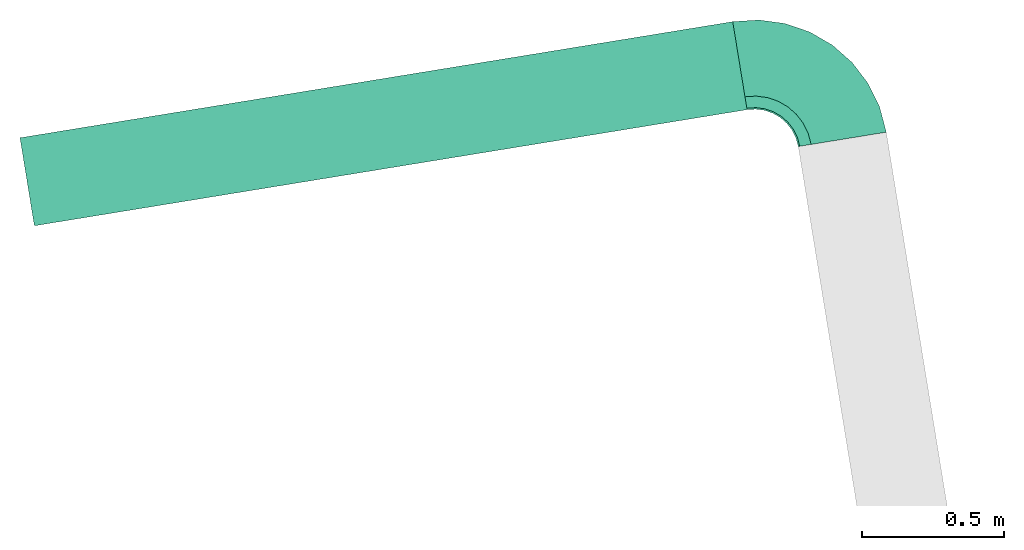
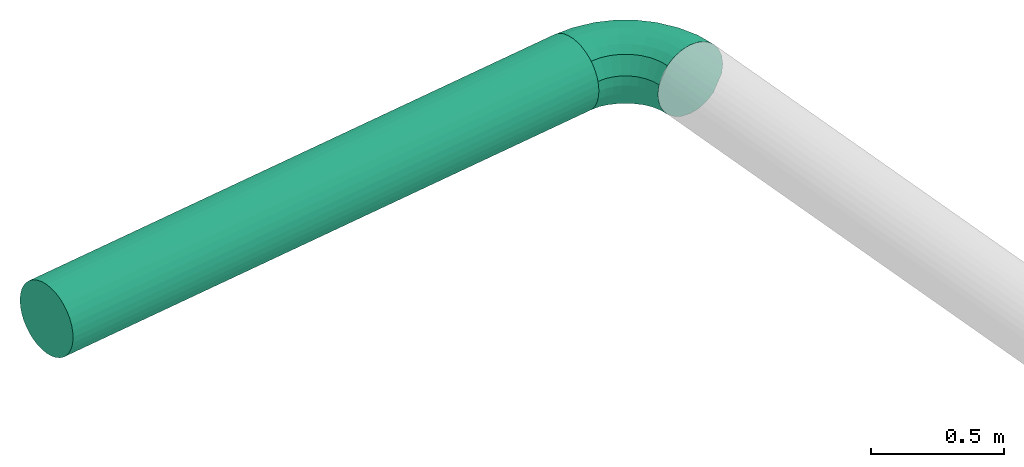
# One storey, part 2 of 2: 1 flow fitting, 1 flow segment.
"""IFC2X3 building model written with IfcOpenShell, lengths in millimetres."""

import ifcopenshell
import ifcopenshell.guid

model = None  # the IFC model being written
_history = None  # IfcOwnerHistory: only IFC2X3 demands one
_inside = {}  # id of a spatial element -> (the spatial element, [elements in it])
_under = {}  # id of a project, library or spatial element -> (it, [spatial elements below it])
_declared = {}  # id of a project -> (the project, [libraries it declares])
_typed = {}  # id of a type object -> (the type object, [elements of that type])
_made_of = {}  # id of a material, layer set ... -> (it, [elements and type objects made of it])


def new_model(schema):
    """Start an empty IFC model of exactly this schema.

    Asked for "IFC4X3", IfcOpenShell would pick the latest addendum, in which some entities
    have other attributes; the version numbers below select the first issue.
    IFC2X3 requires an IfcOwnerHistory on every rooted entity: one is made here for all.
    """
    global model, _history
    if schema == "IFC4X3":
        model = ifcopenshell.file(schema_version=(4, 3, 0, 0))
    else:
        model = ifcopenshell.file(schema=schema)
    _inside.clear()
    _under.clear()
    _declared.clear()
    _typed.clear()
    _made_of.clear()
    _history = None
    if model.schema == "IFC2X3":
        org = make("IfcOrganization", Name="unknown")
        user = make(
            "IfcPersonAndOrganization",
            ThePerson=make("IfcPerson", FamilyName="unknown"),
            TheOrganization=org,
        )
        app = make(
            "IfcApplication",
            ApplicationDeveloper=org,
            Version="unknown",
            ApplicationFullName="unknown",
            ApplicationIdentifier="unknown",
        )
        _history = make(
            "IfcOwnerHistory",
            OwningUser=user,
            OwningApplication=app,
            ChangeAction="ADDED",
            CreationDate=0,
        )
    return model


def make(cls, **values):
    """One entity of the class cls with the attributes given. An attribute that is None is left unset."""
    return model.create_entity(
        cls, **{name: value for name, value in values.items() if value is not None}
    )


def entity(cls, *values):
    """Any entity or typed value of the class cls, its attributes in the order of the schema. None: left unset."""
    e = model.create_entity(cls)
    for i, value in enumerate(values):
        if value is not None:
            e[i] = value
    return e


def rooted(cls, **values):
    """An entity with a GlobalId (a new one), such as an element, a storey or a relation."""
    return make(cls, GlobalId=ifcopenshell.guid.new(), OwnerHistory=_history, **values)


def si_unit(unit_type, name, prefix=None):
    """IfcSIUnit, for example si_unit("LENGTHUNIT", "METRE", prefix="MILLI")."""
    return make("IfcSIUnit", UnitType=unit_type, Prefix=prefix, Name=name)


def converted_unit(unit_type, name, factor, base, dimensions=None, offset=None):
    """IfcConversionBasedUnit, such as the inch: factor (a typed value) times the base unit."""
    return make(
        "IfcConversionBasedUnit"
        if offset is None
        else "IfcConversionBasedUnitWithOffset",
        ConversionOffset=offset,
        Dimensions=None
        if dimensions is None
        else entity("IfcDimensionalExponents", *dimensions),
        UnitType=unit_type,
        Name=name,
        ConversionFactor=make(
            "IfcMeasureWithUnit", ValueComponent=factor, UnitComponent=base
        ),
    )


def derived_unit(unit_type, elements):
    """IfcDerivedUnit: a product of units, each with its exponent."""
    return make(
        "IfcDerivedUnit",
        Elements=[
            make("IfcDerivedUnitElement", Unit=unit, Exponent=power)
            for unit, power in elements
        ],
        UnitType=unit_type,
    )


def assignment(units):
    """IfcUnitAssignment: the units of a project."""
    return None if units is None else make("IfcUnitAssignment", Units=units)


def point(xyz):
    """IfcCartesianPoint."""
    return None if xyz is None else make("IfcCartesianPoint", Coordinates=xyz)


def direction(xyz):
    """IfcDirection."""
    return None if xyz is None else make("IfcDirection", DirectionRatios=xyz)


def frame(location, z_axis=None, x_axis=None):
    """IfcAxis2Placement3D, a coordinate frame: its origin and axes. An axis left out is left unset."""
    return make(
        "IfcAxis2Placement3D",
        Location=point(location),
        Axis=direction(z_axis),
        RefDirection=direction(x_axis),
    )


def origin():
    """The frame at (0, 0, 0) with its axes left unset."""
    return frame((0.0, 0.0, 0.0))


def origin_with_axes():
    """The frame at (0, 0, 0) with the z axis (0, 0, 1) and the x axis (1, 0, 0) written out."""
    return frame((0.0, 0.0, 0.0), z_axis=(0.0, 0.0, 1.0), x_axis=(1.0, 0.0, 0.0))


def place(relative_to, where):
    """IfcLocalPlacement: puts the frame where relative to a parent placement (None: the world)."""
    return make(
        "IfcLocalPlacement", PlacementRelTo=relative_to, RelativePlacement=where
    )


def context(
    kind, dimensions, precision=None, world=None, true_north=None, identifier=None
):
    """IfcGeometricRepresentationContext, for example the 3D "Model" context."""
    return make(
        "IfcGeometricRepresentationContext",
        ContextIdentifier=identifier,
        ContextType=kind,
        CoordinateSpaceDimension=dimensions,
        Precision=precision,
        WorldCoordinateSystem=world,
        TrueNorth=true_north,
    )


def subcontext(parent, identifier, kind, view, scale=None):
    """IfcGeometricRepresentationSubContext, for example "Body" below "Model"."""
    return make(
        "IfcGeometricRepresentationSubContext",
        ContextIdentifier=identifier,
        ContextType=kind,
        ParentContext=parent,
        TargetScale=scale,
        TargetView=view,
    )


def project(units=None, contexts=None):
    """IfcProject with its units and contexts."""
    return rooted(
        "IfcProject",
        Name="project",
        RepresentationContexts=contexts,
        UnitsInContext=assignment(units),
    )


def spatial(cls, under=None, at=None, **own):
    """A site, building, storey or space (cls), placed at a placement, below another one or the project."""
    s = rooted(cls, ObjectPlacement=at, **own)
    if under is not None:
        _under.setdefault(under.id(), (under, []))[1].append(s)
    return s


def faces_of(points, faces, orient=None, outer=None):
    """IfcFace entities. A face is a list of loops; a loop is a list of indices into points, from 0.

    orient and outer hold one flag for each loop. By default every Orientation is true, the
    first loop of a face is its IfcFaceOuterBound and the others are IfcFaceBound.
    """
    made = []
    for i, loops in enumerate(faces):
        bounds = []
        for j, loop in enumerate(loops):
            is_outer = j == 0 if outer is None else outer[i][j]
            bounds.append(
                make(
                    "IfcFaceOuterBound" if is_outer else "IfcFaceBound",
                    Bound=make("IfcPolyLoop", Polygon=[points[k] for k in loop]),
                    Orientation=True if orient is None else orient[i][j],
                )
            )
        made.append(make("IfcFace", Bounds=bounds))
    return made


def faceted_brep(points, faces, orient=None, outer=None, voids=None):
    """IfcFacetedBrep: a solid bounded by flat faces; with voids (closed shells), ...WithVoids."""
    shared = [point(p) for p in points]
    hull = make("IfcClosedShell", CfsFaces=faces_of(shared, faces, orient, outer))
    if voids is None:
        return make("IfcFacetedBrep", Outer=hull)
    return make(
        "IfcFacetedBrepWithVoids",
        Outer=hull,
        Voids=[
            make(cls, CfsFaces=faces_of(shared, fs, o, b)) for cls, fs, o, b in voids
        ],
    )


def shape(context_of_items, identifier, shape_type, items):
    """IfcShapeRepresentation: the items that make up one representation, for example the "Body"."""
    return make(
        "IfcShapeRepresentation",
        ContextOfItems=context_of_items,
        RepresentationIdentifier=identifier,
        RepresentationType=shape_type,
        Items=items,
    )


def source(mapping_origin, context_of_items, identifier, shape_type, items):
    """IfcRepresentationMap: a shape defined once, which mapped items show again and again."""
    return make(
        "IfcRepresentationMap",
        MappingOrigin=mapping_origin,
        MappedRepresentation=shape(context_of_items, identifier, shape_type, items),
    )


def transform(
    local_origin,
    x_axis=None,
    y_axis=None,
    z_axis=None,
    scale=None,
    scale2=None,
    scale3=None,
    uniform=True,
):
    """IfcCartesianTransformationOperator3D, or its non-uniform kind. x_axis, y_axis, z_axis: its Axis1, 2, 3."""
    if uniform:
        return make(
            "IfcCartesianTransformationOperator3D",
            Axis1=direction(x_axis),
            Axis2=direction(y_axis),
            LocalOrigin=point(local_origin),
            Scale=scale,
            Axis3=direction(z_axis),
        )
    return make(
        "IfcCartesianTransformationOperator3DnonUniform",
        Axis1=direction(x_axis),
        Axis2=direction(y_axis),
        LocalOrigin=point(local_origin),
        Scale=scale,
        Axis3=direction(z_axis),
        Scale2=scale2,
        Scale3=scale3,
    )


def mapped(mapping_source, mapping_target):
    """IfcMappedItem: shows the shape of a source again, moved by a transform."""
    return make(
        "IfcMappedItem", MappingSource=mapping_source, MappingTarget=mapping_target
    )


def material(Name=None, Category=None):
    """IfcMaterial."""
    return make("IfcMaterial", Name=Name, Category=Category)


def made_of(thing, what):
    """Note that an element or type object is made of a material, layer set ...; save() writes the relation."""
    if what is not None:
        _made_of.setdefault(what.id(), (what, []))[1].append(thing)
    return thing


def type_object(cls, material=None, **own):
    """A type object (cls), such as IfcWallType, which elements share."""
    return made_of(rooted(cls, **own), material)


def element(
    cls,
    number,
    at=None,
    inside=None,
    cuts=None,
    type_object=None,
    material=None,
    context=None,
    identifier="Body",
    shape_type=None,
    held_by="IfcProductDefinitionShape",
    body=None,
    shapes=None,
    **own,
):
    """One element of the class cls, such as IfcWall. Its Tag is "e" and its number.

    at: its placement. inside: the storey or other place that contains it. cuts: it is an
    opening in that element (IfcRelVoidsElement). A single representation is given by context,
    identifier, shape_type and body (its items); several are given by shapes. held_by: the class
    of the entity that holds the representations. save() writes the other relations.
    """
    e = rooted(cls, Tag="e%d" % number, ObjectPlacement=at, **own)
    if body is not None:
        shapes = [shape(context, identifier, shape_type, body)]
    if shapes is not None:
        e.Representation = make(held_by, Representations=shapes)
    if inside is not None:
        _inside.setdefault(inside.id(), (inside, []))[1].append(e)
    if cuts is not None:
        rooted(
            "IfcRelVoidsElement", RelatingBuildingElement=cuts, RelatedOpeningElement=e
        )
    if type_object is not None:
        _typed.setdefault(type_object.id(), (type_object, []))[1].append(e)
    return made_of(e, material)


def aggregate(whole, parts):
    """IfcRelAggregates: a whole, such as a stair, and the parts it consists of."""
    return rooted("IfcRelAggregates", RelatingObject=whole, RelatedObjects=parts)


def save(model, path):
    """Write the relations noted so far, then the file.

    IfcRelAggregates (storeys below a building ...), IfcRelContainedInSpatialStructure (elements
    in a storey), IfcRelDefinesByType, IfcRelAssociatesMaterial and IfcRelDeclares: one each for
    every whole, place, type object, material and project.
    """
    for whole, parts in _under.values():
        aggregate(whole, parts)
    for where, things in _inside.values():
        rooted(
            "IfcRelContainedInSpatialStructure",
            RelatedElements=things,
            RelatingStructure=where,
        )
    for kind, things in _typed.values():
        rooted("IfcRelDefinesByType", RelatedObjects=things, RelatingType=kind)
    for what, things in _made_of.values():
        rooted("IfcRelAssociatesMaterial", RelatedObjects=things, RelatingMaterial=what)
    for by, libraries in _declared.values():
        rooted("IfcRelDeclares", RelatingContext=by, RelatedDefinitions=libraries)
    model.write(path)


model = new_model("IFC2X3")

# Units and contexts
plan_context = context("Plan", 3, precision=1e-05, world=origin_with_axes())
model_context = context("Model", 3, precision=0.01, world=origin(), true_north=direction((6.12323399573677e-17, 1.0)))
body_context = subcontext(model_context, "Body", "Model", "MODEL_VIEW")
ifc_project = project(units=[converted_unit("PLANEANGLEUNIT", "DEGREE", entity("IfcPositiveLengthMeasure", 0.0174532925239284), si_unit("PLANEANGLEUNIT", "RADIAN"), dimensions=[0, 0, 0, 0, 0, 0, 0]), si_unit("AREAUNIT", "SQUARE_METRE"), si_unit("LENGTHUNIT", "METRE", prefix="MILLI"), si_unit("MASSUNIT", "GRAM", prefix="KILO"), si_unit("POWERUNIT", "WATT"), si_unit("PRESSUREUNIT", "PASCAL", prefix="KILO"), si_unit("FORCEUNIT", "NEWTON", prefix="KILO"), si_unit("ELECTRICVOLTAGEUNIT", "VOLT"), si_unit("ELECTRICCURRENTUNIT", "AMPERE"), si_unit("THERMODYNAMICTEMPERATUREUNIT", "DEGREE_CELSIUS"), si_unit("TIMEUNIT", "SECOND"), si_unit("VOLUMEUNIT", "CUBIC_METRE"), derived_unit("LINEARVELOCITYUNIT", [(si_unit("LENGTHUNIT", "METRE"), 1), (si_unit("TIMEUNIT", "SECOND"), -1)]), derived_unit("VOLUMETRICFLOWRATEUNIT", [(si_unit("VOLUMEUNIT", "CUBIC_METRE"), 1), (si_unit("TIMEUNIT", "SECOND"), -1)]), derived_unit("THERMALTRANSMITTANCEUNIT", [(si_unit("POWERUNIT", "WATT"), 1), (si_unit("THERMODYNAMICTEMPERATUREUNIT", "KELVIN"), -1), (si_unit("AREAUNIT", "SQUARE_METRE"), -1)]), derived_unit("SOUNDPRESSUREUNIT", [(si_unit("PRESSUREUNIT", "PASCAL"), 1)])], contexts=[model_context, plan_context])

# Site, building, storey
site_placement = place(None, frame((5.09380697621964e-08, 5.80416781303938e-08, 0.0), z_axis=(0.0, 0.0, 1.0), x_axis=(-0.160806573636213, 0.986985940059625, 0.0)))
site = spatial("IfcSite", under=ifc_project, at=site_placement, Name="Default", CompositionType="ELEMENT")
building_placement = place(site_placement, frame((0.0, 0.0, 0.0), z_axis=(0.0, 0.0, 1.0), x_axis=(1.0, -2.77555756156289e-17, 0.0)))
building = spatial("IfcBuilding", under=site, at=building_placement, Name="Bygning (endres i Project Information)", CompositionType="ELEMENT")
storey_placement = place(building_placement, frame((0.0, 0.0, 51360.0000000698), z_axis=(0.0, 0.0, 1.0), x_axis=(1.0, -2.77555756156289e-17, 0.0)))
storey = spatial("IfcBuildingStorey", under=building, at=storey_placement, Name="H01-Nivå D+0,36", CompositionType="ELEMENT", Elevation=51360.0000000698)

# Flow fitting
ifc_material = material(Name="3601.001 Tilluft")
duct_fitting_type = type_object("IfcDuctFittingType", Name="magicirc_elbow_full_radius_NOR:magicirc_elbow_full_radius_NOR", PredefinedType="NOTDEFINED", material=ifc_material)
shared_shape = source(origin(), body_context, "Body", "Brep", [
    faceted_brep([(-222.819823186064, -148.421045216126, 0.0), (-223.866810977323, -143.157482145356, 40.7639996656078), (-315.000000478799, -152.133317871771, 40.7639996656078), (-315.000000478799, -157.5000002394, 0.0), (-226.936423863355, -127.725496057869, 78.7500001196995), (-315.000000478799, -136.399001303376, 78.7500001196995), (-231.819472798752, -103.176751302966, 111.369318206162), (-315.000000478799, -111.369318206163, 111.369318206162), (-238.183186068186, -71.1842042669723, 136.399001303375), (-315.000000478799, -78.7500001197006, 136.399001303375), (-245.59388712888, -33.9280941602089, 152.133317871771), (-315.000000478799, -40.763999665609, 152.133317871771), (-253.546548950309, 6.05263668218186, 157.5000002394), (-315.000000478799, 0.0, 157.5000002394), (-261.499210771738, 46.0333675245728, 152.133317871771), (-315.000000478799, 40.7639996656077, 152.133317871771), (-268.909911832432, 83.2894776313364, 136.399001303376), (-315.000000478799, 78.7500001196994, 136.399001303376), (-275.273625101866, 115.28202466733, 111.369318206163), (-315.000000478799, 111.369318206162, 111.369318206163), (-283.226286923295, 155.262755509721, 40.7639996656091), (-315.000000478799, 152.133317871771, 40.7639996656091), (-284.273274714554, 160.526318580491, 0.0), (-315.000000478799, 157.5000002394, 0.0), (-283.226286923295, 155.262755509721, -40.7639996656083), (-315.000000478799, 152.133317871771, -40.7639996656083), (-280.156674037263, 139.830769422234, -78.7500001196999), (-315.000000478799, 136.399001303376, -78.7500001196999), (-275.273625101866, 115.28202466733, -111.369318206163), (-315.000000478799, 111.369318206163, -111.369318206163), (-268.909911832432, 83.2894776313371, -136.399001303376), (-315.000000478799, 78.7500001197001, -136.399001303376), (-261.499210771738, 46.0333675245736, -152.133317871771), (-315.000000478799, 40.7639996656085, -152.133317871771), (-253.546548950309, 6.05263668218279, -157.5000002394), (-315.000000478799, 0.0, -157.5000002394), (-245.59388712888, -33.928094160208, -152.133317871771), (-315.000000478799, -40.763999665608, -152.133317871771), (-238.183186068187, -71.1842042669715, -136.399001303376), (-315.000000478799, -78.7500001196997, -136.399001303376), (-231.819472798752, -103.176751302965, -111.369318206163), (-315.000000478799, -111.369318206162, -111.369318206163), (-223.866810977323, -143.157482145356, -40.7639996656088), (-315.000000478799, -152.133317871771, -40.7639996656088), (-134.18207841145, -121.533079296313, 0.0), (-136.235818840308, -116.574911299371, 40.7639996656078), (-142.25708111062, -102.038298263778, 78.7500001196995), (-151.835526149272, -78.9138863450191, 111.369318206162), (-164.318398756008, -48.7775660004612, 136.399001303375), (-178.855011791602, -13.6830776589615, 152.133317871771), (-194.454719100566, 23.9779472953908, 157.5000002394), (-210.054426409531, 61.6389722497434, 152.133317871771), (-224.591039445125, 96.7334605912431, 136.399001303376), (-237.073912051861, 126.869780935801, 111.369318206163), (-252.673619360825, 164.530805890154, 40.7639996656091), (-254.727359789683, 169.488973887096, 0.0), (-252.673619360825, 164.530805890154, -40.7639996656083), (-246.652357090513, 149.994192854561, -78.7500001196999), (-237.073912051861, 126.869780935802, -111.369318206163), (-224.591039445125, 96.7334605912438, -136.399001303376), (-210.054426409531, 61.6389722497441, -152.133317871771), (-194.454719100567, 23.9779472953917, -157.5000002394), (-178.855011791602, -13.6830776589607, -152.133317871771), (-164.318398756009, -48.7775660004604, -136.399001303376), (-151.835526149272, -78.9138863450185, -111.369318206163), (-136.235818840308, -116.574911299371, -40.7639996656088), (-52.493064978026, -77.8693919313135, 0.0), (-55.4746339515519, -73.4071586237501, 40.7639996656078), (-64.2161518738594, -60.3245525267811, 78.7500001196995), (-78.1218987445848, -39.513131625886, 111.369318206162), (-96.2442208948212, -12.3911598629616, 136.399001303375), (-117.348112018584, 19.1930452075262, 152.133317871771), (-139.995376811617, 53.0870722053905, 157.5000002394), (-162.64264160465, 86.981099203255, 152.133317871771), (-183.746532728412, 118.565304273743, 136.399001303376), (-201.868854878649, 145.687276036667, 111.369318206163), (-224.516119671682, 179.581303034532, 40.7639996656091), (-227.497688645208, 184.043536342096, 0.0), (-224.516119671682, 179.581303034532, -40.7639996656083), (-215.774601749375, 166.498696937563, -78.7500001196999), (-201.868854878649, 145.687276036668, -111.369318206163), (-183.746532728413, 118.565304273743, -136.399001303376), (-162.64264160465, 86.9810992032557, -152.133317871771), (-139.995376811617, 53.0870722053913, -157.5000002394), (-117.348112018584, 19.1930452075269, -152.133317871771), (-96.2442208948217, -12.391159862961, -136.399001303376), (-78.1218987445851, -39.5131316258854, -111.369318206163), (-55.474633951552, -73.4071586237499, -40.7639996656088), (19.1079541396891, -19.1079541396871, 0.0), (15.3131366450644, -15.3131366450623, 40.7639996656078), (4.18729470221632, -4.18729470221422, 78.7500001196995), (-13.5113639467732, 13.5113639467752, 111.369318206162), (-36.5767049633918, 36.5767049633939, 136.399001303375), (-63.4368634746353, 63.4368634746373, 152.133317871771), (-92.2613640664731, 92.261364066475, 157.5000002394), (-121.085864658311, 121.085864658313, 152.133317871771), (-147.946023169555, 147.946023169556, 136.399001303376), (-171.011364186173, 171.011364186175, 111.369318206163), (-199.835864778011, 199.835864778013, 40.7639996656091), (-203.630682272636, 203.630682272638, 0.0), (-199.835864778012, 199.835864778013, -40.7639996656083), (-188.710022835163, 188.710022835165, -78.7500001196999), (-171.011364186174, 171.011364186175, -111.369318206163), (-147.946023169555, 147.946023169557, -136.399001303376), (-121.085864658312, 121.085864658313, -152.133317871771), (-92.2613640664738, 92.2613640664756, -157.5000002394), (-63.4368634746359, 63.4368634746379, -152.133317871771), (-36.5767049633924, 36.5767049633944, -136.399001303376), (-13.5113639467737, 13.5113639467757, -111.369318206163), (15.3131366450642, -15.3131366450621, -40.7639996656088), (77.8693919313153, 52.4930649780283, 0.0), (73.4071586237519, 55.4746339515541, 40.7639996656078), (60.3245525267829, 64.2161518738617, 78.7500001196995), (39.5131316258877, 78.1218987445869, 111.369318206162), (12.3911598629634, 96.2442208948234, 136.399001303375), (-19.1930452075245, 117.348112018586, 152.133317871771), (-53.0870722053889, 139.995376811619, 157.5000002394), (-86.9810992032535, 162.642641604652, 152.133317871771), (-118.565304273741, 183.746532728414, 136.399001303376), (-145.687276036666, 201.868854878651, 111.369318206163), (-179.581303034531, 224.516119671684, 40.7639996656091), (-184.043536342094, 227.49768864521, 0.0), (-179.581303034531, 224.516119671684, -40.7639996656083), (-166.498696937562, 215.774601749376, -78.7500001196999), (-145.687276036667, 201.868854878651, -111.369318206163), (-118.565304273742, 183.746532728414, -136.399001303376), (-86.9810992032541, 162.642641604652, -152.133317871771), (-53.0870722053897, 139.995376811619, -157.5000002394), (-19.1930452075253, 117.348112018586, -152.133317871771), (12.3911598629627, 96.2442208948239, -136.399001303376), (39.5131316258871, 78.1218987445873, -111.369318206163), (73.4071586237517, 55.4746339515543, -40.7639996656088), (121.533079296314, 134.182078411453, 0.0), (116.574911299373, 136.23581884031, 40.7639996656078), (102.038298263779, 142.257081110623, 78.7500001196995), (78.9138863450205, 151.835526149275, 111.369318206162), (48.7775660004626, 164.318398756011, 136.399001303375), (13.6830776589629, 178.855011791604, 152.133317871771), (-23.9779472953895, 194.454719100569, 157.5000002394), (-61.6389722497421, 210.054426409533, 152.133317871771), (-96.7334605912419, 224.591039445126, 136.399001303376), (-126.8697809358, 237.073912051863, 111.369318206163), (-164.530805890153, 252.673619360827, 40.7639996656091), (-169.488973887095, 254.727359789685, 0.0), (-164.530805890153, 252.673619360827, -40.7639996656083), (-149.994192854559, 246.652357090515, -78.7500001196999), (-126.869780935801, 237.073912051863, -111.369318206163), (-96.7334605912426, 224.591039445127, -136.399001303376), (-61.6389722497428, 210.054426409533, -152.133317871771), (-23.9779472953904, 194.454719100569, -157.5000002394), (13.6830776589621, 178.855011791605, -152.133317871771), (48.7775660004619, 164.318398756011, -136.399001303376), (78.9138863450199, 151.835526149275, -111.369318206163), (116.574911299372, 136.23581884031, -40.7639996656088), (148.421045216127, 222.819823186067, 0.0), (143.157482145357, 223.866810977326, 40.7639996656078), (127.725496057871, 226.936423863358, 78.7500001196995), (103.176751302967, 231.819472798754, 111.369318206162), (71.1842042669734, 238.183186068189, 136.399001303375), (33.9280941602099, 245.593887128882, 152.133317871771), (-6.05263668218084, 253.546548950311, 157.5000002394), (-46.0333675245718, 261.49921077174, 152.133317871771), (-83.2894776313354, 268.909911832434, 136.399001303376), (-115.282024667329, 275.273625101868, 111.369318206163), (-155.26275550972, 283.226286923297, 40.7639996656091), (-160.52631858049, 284.273274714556, 0.0), (-155.26275550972, 283.226286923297, -40.7639996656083), (-139.830769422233, 280.156674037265, -78.7500001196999), (-115.282024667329, 275.273625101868, -111.369318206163), (-83.2894776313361, 268.909911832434, -136.399001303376), (-46.0333675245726, 261.49921077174, -152.133317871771), (-6.05263668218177, 253.546548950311, -157.5000002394), (33.928094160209, 245.593887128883, -152.133317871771), (71.1842042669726, 238.183186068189, -136.399001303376), (103.176751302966, 231.819472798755, -111.369318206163), (143.157482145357, 223.866810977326, -40.7639996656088), (157.500000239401, 315.000000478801, 0.0), (152.133317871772, 315.000000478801, 40.7639996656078), (136.399001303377, 315.000000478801, 78.7500001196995), (111.369318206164, 315.000000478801, 111.369318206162), (78.7500001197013, 315.000000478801, 136.399001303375), (40.7639996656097, 315.000000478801, 152.133317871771), (0.0, 315.000000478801, 157.5000002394), (-40.7639996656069, 315.000000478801, 152.133317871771), (-78.7500001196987, 315.000000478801, 136.399001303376), (-111.369318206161, 315.000000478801, 111.369318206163), (-152.13331787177, 315.000000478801, 40.7639996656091), (-157.500000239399, 315.000000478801, 0.0), (-152.13331787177, 315.000000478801, -40.7639996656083), (-136.399001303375, 315.000000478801, -78.7500001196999), (-111.369318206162, 315.000000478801, -111.369318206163), (-78.7500001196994, 315.000000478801, -136.399001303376), (-40.7639996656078, 315.000000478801, -152.133317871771), (0.0, 315.000000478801, -157.5000002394), (40.7639996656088, 315.000000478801, -152.133317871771), (78.7500001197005, 315.000000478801, -136.399001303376), (111.369318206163, 315.000000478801, -111.369318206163), (152.133317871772, 315.000000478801, -40.7639996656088)], [[[0, 1, 2, 3]], [[1, 4, 5, 2]], [[4, 6, 7, 5]], [[6, 8, 9, 7]], [[8, 10, 11, 9]], [[10, 12, 13, 11]], [[12, 14, 15, 13]], [[14, 16, 17, 15]], [[16, 18, 19, 17]], [[18, 20, 21, 19]], [[20, 22, 23, 21]], [[22, 24, 25, 23]], [[24, 26, 27, 25]], [[26, 28, 29, 27]], [[28, 30, 31, 29]], [[30, 32, 33, 31]], [[32, 34, 35, 33]], [[34, 36, 37, 35]], [[36, 38, 39, 37]], [[38, 40, 41, 39]], [[40, 42, 43, 41]], [[42, 0, 3, 43]], [[44, 45, 1, 0]], [[45, 46, 4, 1]], [[46, 47, 6, 4]], [[47, 48, 8, 6]], [[48, 49, 10, 8]], [[49, 50, 12, 10]], [[50, 51, 14, 12]], [[51, 52, 16, 14]], [[52, 53, 18, 16]], [[53, 54, 20, 18]], [[54, 55, 22, 20]], [[55, 56, 24, 22]], [[56, 57, 26, 24]], [[57, 58, 28, 26]], [[58, 59, 30, 28]], [[59, 60, 32, 30]], [[60, 61, 34, 32]], [[61, 62, 36, 34]], [[62, 63, 38, 36]], [[63, 64, 40, 38]], [[64, 65, 42, 40]], [[65, 44, 0, 42]], [[66, 67, 45, 44]], [[67, 68, 46, 45]], [[68, 69, 47, 46]], [[69, 70, 48, 47]], [[70, 71, 49, 48]], [[71, 72, 50, 49]], [[72, 73, 51, 50]], [[73, 74, 52, 51]], [[74, 75, 53, 52]], [[75, 76, 54, 53]], [[76, 77, 55, 54]], [[77, 78, 56, 55]], [[78, 79, 57, 56]], [[79, 80, 58, 57]], [[80, 81, 59, 58]], [[81, 82, 60, 59]], [[82, 83, 61, 60]], [[83, 84, 62, 61]], [[84, 85, 63, 62]], [[85, 86, 64, 63]], [[86, 87, 65, 64]], [[87, 66, 44, 65]], [[88, 89, 67, 66]], [[89, 90, 68, 67]], [[90, 91, 69, 68]], [[91, 92, 70, 69]], [[92, 93, 71, 70]], [[93, 94, 72, 71]], [[94, 95, 73, 72]], [[95, 96, 74, 73]], [[96, 97, 75, 74]], [[97, 98, 76, 75]], [[98, 99, 77, 76]], [[99, 100, 78, 77]], [[100, 101, 79, 78]], [[101, 102, 80, 79]], [[102, 103, 81, 80]], [[103, 104, 82, 81]], [[104, 105, 83, 82]], [[105, 106, 84, 83]], [[106, 107, 85, 84]], [[107, 108, 86, 85]], [[108, 109, 87, 86]], [[109, 88, 66, 87]], [[110, 111, 89, 88]], [[111, 112, 90, 89]], [[112, 113, 91, 90]], [[113, 114, 92, 91]], [[114, 115, 93, 92]], [[115, 116, 94, 93]], [[116, 117, 95, 94]], [[117, 118, 96, 95]], [[118, 119, 97, 96]], [[119, 120, 98, 97]], [[120, 121, 99, 98]], [[121, 122, 100, 99]], [[122, 123, 101, 100]], [[123, 124, 102, 101]], [[124, 125, 103, 102]], [[125, 126, 104, 103]], [[126, 127, 105, 104]], [[127, 128, 106, 105]], [[128, 129, 107, 106]], [[129, 130, 108, 107]], [[130, 131, 109, 108]], [[131, 110, 88, 109]], [[132, 133, 111, 110]], [[133, 134, 112, 111]], [[134, 135, 113, 112]], [[135, 136, 114, 113]], [[136, 137, 115, 114]], [[137, 138, 116, 115]], [[138, 139, 117, 116]], [[139, 140, 118, 117]], [[140, 141, 119, 118]], [[141, 142, 120, 119]], [[142, 143, 121, 120]], [[143, 144, 122, 121]], [[144, 145, 123, 122]], [[145, 146, 124, 123]], [[146, 147, 125, 124]], [[147, 148, 126, 125]], [[148, 149, 127, 126]], [[149, 150, 128, 127]], [[150, 151, 129, 128]], [[151, 152, 130, 129]], [[152, 153, 131, 130]], [[153, 132, 110, 131]], [[154, 155, 133, 132]], [[155, 156, 134, 133]], [[156, 157, 135, 134]], [[157, 158, 136, 135]], [[158, 159, 137, 136]], [[159, 160, 138, 137]], [[160, 161, 139, 138]], [[161, 162, 140, 139]], [[162, 163, 141, 140]], [[163, 164, 142, 141]], [[164, 165, 143, 142]], [[165, 166, 144, 143]], [[166, 167, 145, 144]], [[167, 168, 146, 145]], [[168, 169, 147, 146]], [[169, 170, 148, 147]], [[170, 171, 149, 148]], [[171, 172, 150, 149]], [[172, 173, 151, 150]], [[173, 174, 152, 151]], [[174, 175, 153, 152]], [[175, 154, 132, 153]], [[176, 177, 155, 154]], [[177, 178, 156, 155]], [[178, 179, 157, 156]], [[179, 180, 158, 157]], [[180, 181, 159, 158]], [[181, 182, 160, 159]], [[182, 183, 161, 160]], [[183, 184, 162, 161]], [[184, 185, 163, 162]], [[185, 186, 164, 163]], [[186, 187, 165, 164]], [[187, 188, 166, 165]], [[188, 189, 167, 166]], [[189, 190, 168, 167]], [[190, 191, 169, 168]], [[191, 192, 170, 169]], [[192, 193, 171, 170]], [[193, 194, 172, 171]], [[194, 195, 173, 172]], [[195, 196, 174, 173]], [[196, 197, 175, 174]], [[197, 176, 154, 175]], [[3, 2, 5, 7, 9, 11, 13, 15, 17, 19, 21, 23, 25, 27, 29, 31, 33, 35, 37, 39, 41, 43]], [[197, 196, 195, 194, 193, 192, 191, 190, 189, 188, 187, 186, 185, 184, 183, 182, 181, 180, 179, 178, 177, 176]]]),
])
flow_fitting_placement = place(storey_placement, frame((977798.344292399, -369067.388150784, 3100.0), z_axis=(0.0, 0.0, 1.0), x_axis=(1.0, -2.77555756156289e-17, 0.0)))
element("IfcFlowFitting", 1, at=flow_fitting_placement, inside=storey, type_object=duct_fitting_type, material=ifc_material, Name="magicirc_elbow_full_radius_NOR:magicirc_elbow_full_radius_NOR", ObjectType="magicirc_elbow_full_radius_NOR:magicirc_elbow_full_radius_NOR", context=body_context, shape_type="MappedRepresentation", body=[
    mapped(shared_shape, transform((0.0, 0.0, 0.0), scale=1.0)),
])

# Flow segment
duct_segment_type = type_object("IfcDuctSegmentType", Name="Round Duct:Sirkulær kanal", PredefinedType="NOTDEFINED", material=ifc_material)
flow_segment_placement = place(storey_placement, frame((0.0, 0.0, 0.0), z_axis=(0.0, 0.0, 1.0), x_axis=(1.0, -2.77555756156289e-17, 0.0)))
element("IfcFlowSegment", 2, at=flow_segment_placement, inside=storey, type_object=duct_segment_type, Name="Round Duct:Sirkulær kanal", ObjectType="Round Duct:Sirkulær kanal", context=body_context, shape_type="Brep", body=[
    faceted_brep([(977643.237071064, -366202.062917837, 3072.65041197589), (977640.84429216, -366202.062917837, 3100.0), (977640.84429216, -368752.388150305, 3100.0), (977643.237071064, -368752.388150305, 3072.65041197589), (977643.237071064, -366202.062917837, 3127.34958802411), (977643.237071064, -368752.388150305, 3127.34958802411), (977650.342704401, -366202.062917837, 3153.86817265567), (977650.342704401, -368752.388150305, 3153.86817265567), (977661.945291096, -366202.062917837, 3178.7500001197), (977661.945291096, -368752.388150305, 3178.7500001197), (977677.692292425, -366202.062917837, 3201.23904867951), (977677.692292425, -368752.388150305, 3201.23904867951), (977697.10524372, -366202.062917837, 3220.65199997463), (977697.10524372, -368752.388150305, 3220.65199997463), (977719.59429228, -366202.062917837, 3236.39900130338), (977719.59429228, -368752.388150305, 3236.39900130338), (977744.476119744, -366202.062917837, 3248.00158799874), (977744.476119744, -368752.388150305, 3248.00158799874), (977770.994704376, -366202.062917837, 3255.10722133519), (977770.994704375, -368752.388150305, 3255.10722133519), (977798.344292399, -366202.062917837, 3257.5000002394), (977798.344292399, -368752.388150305, 3257.5000002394), (977825.693880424, -366202.062917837, 3255.10722133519), (977825.693880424, -368752.388150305, 3255.10722133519), (977852.212465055, -366202.062917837, 3248.00158799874), (977852.212465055, -368752.388150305, 3248.00158799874), (977877.094292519, -366202.062917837, 3236.39900130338), (977877.094292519, -368752.388150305, 3236.39900130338), (977899.583341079, -366202.062917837, 3220.65199997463), (977899.583341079, -368752.388150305, 3220.65199997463), (977918.996292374, -366202.062917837, 3201.23904867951), (977918.996292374, -368752.388150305, 3201.23904867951), (977934.743293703, -366202.062917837, 3178.7500001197), (977934.743293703, -368752.388150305, 3178.7500001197), (977946.345880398, -366202.062917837, 3153.86817265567), (977946.345880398, -368752.388150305, 3153.86817265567), (977953.451513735, -366202.062917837, 3127.34958802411), (977953.451513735, -368752.388150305, 3127.34958802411), (977955.844292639, -366202.062917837, 3100.0), (977955.844292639, -368752.388150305, 3100.0), (977953.451513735, -366202.062917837, 3072.65041197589), (977953.451513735, -368752.388150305, 3072.65041197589), (977946.345880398, -366202.062917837, 3046.13182734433), (977946.345880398, -368752.388150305, 3046.13182734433), (977934.743293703, -366202.062917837, 3021.2499998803), (977934.743293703, -368752.388150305, 3021.2499998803), (977918.996292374, -366202.062917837, 2998.76095132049), (977918.996292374, -368752.388150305, 2998.76095132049), (977899.583341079, -366202.062917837, 2979.34800002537), (977899.583341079, -368752.388150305, 2979.34800002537), (977877.094292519, -366202.062917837, 2963.60099869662), (977877.094292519, -368752.388150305, 2963.60099869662), (977852.212465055, -366202.062917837, 2951.99841200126), (977852.212465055, -368752.388150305, 2951.99841200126), (977825.693880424, -366202.062917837, 2944.89277866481), (977825.693880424, -368752.388150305, 2944.89277866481), (977798.344292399, -366202.062917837, 2942.4999997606), (977798.344292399, -368752.388150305, 2942.4999997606), (977770.994704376, -366202.062917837, 2944.89277866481), (977770.994704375, -368752.388150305, 2944.89277866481), (977744.476119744, -366202.062917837, 2951.99841200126), (977744.476119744, -368752.388150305, 2951.99841200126), (977719.59429228, -366202.062917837, 2963.60099869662), (977719.59429228, -368752.388150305, 2963.60099869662), (977697.10524372, -366202.062917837, 2979.34800002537), (977697.10524372, -368752.388150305, 2979.34800002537), (977677.692292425, -366202.062917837, 2998.76095132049), (977677.692292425, -368752.388150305, 2998.76095132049), (977661.945291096, -366202.062917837, 3021.2499998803), (977661.945291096, -368752.388150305, 3021.2499998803), (977650.342704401, -366202.062917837, 3046.13182734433), (977650.342704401, -368752.388150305, 3046.13182734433)], [[[0, 1, 2, 3]], [[1, 4, 5, 2]], [[4, 6, 7, 5]], [[6, 8, 9, 7]], [[8, 10, 11, 9]], [[10, 12, 13, 11]], [[12, 14, 15, 13]], [[14, 16, 17, 15]], [[16, 18, 19, 17]], [[18, 20, 21, 19]], [[20, 22, 23, 21]], [[22, 24, 25, 23]], [[24, 26, 27, 25]], [[26, 28, 29, 27]], [[28, 30, 31, 29]], [[30, 32, 33, 31]], [[32, 34, 35, 33]], [[34, 36, 37, 35]], [[36, 38, 39, 37]], [[38, 40, 41, 39]], [[40, 42, 43, 41]], [[42, 44, 45, 43]], [[44, 46, 47, 45]], [[46, 48, 49, 47]], [[48, 50, 51, 49]], [[50, 52, 53, 51]], [[52, 54, 55, 53]], [[54, 56, 57, 55]], [[56, 58, 59, 57]], [[58, 60, 61, 59]], [[60, 62, 63, 61]], [[62, 64, 65, 63]], [[64, 66, 67, 65]], [[66, 68, 69, 67]], [[68, 70, 71, 69]], [[70, 0, 3, 71]], [[3, 2, 5, 7, 9, 11, 13, 15, 17, 19, 21, 23, 25, 27, 29, 31, 33, 35, 37, 39, 41, 43, 45, 47, 49, 51, 53, 55, 57, 59, 61, 63, 65, 67, 69, 71]], [[70, 68, 66, 64, 62, 60, 58, 56, 54, 52, 50, 48, 46, 44, 42, 40, 38, 36, 34, 32, 30, 28, 26, 24, 22, 20, 18, 16, 14, 12, 10, 8, 6, 4, 1, 0]]], orient=[[False], [False], [False], [False], [False], [False], [False], [False], [False], [False], [False], [False], [False], [False], [False], [False], [False], [False], [False], [False], [False], [False], [False], [False], [False], [False], [False], [False], [False], [False], [False], [False], [False], [False], [False], [False], [False], [False]]),
])

save(model, "model.ifc")
